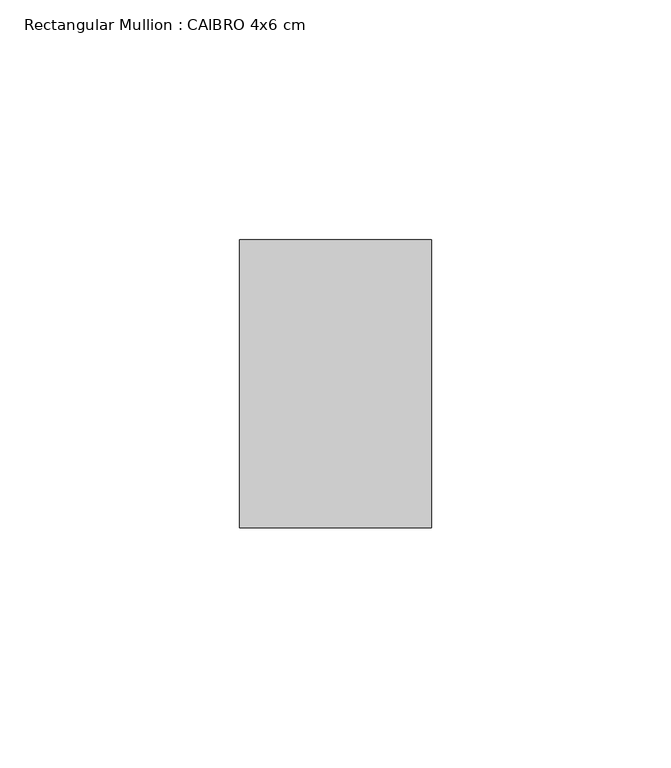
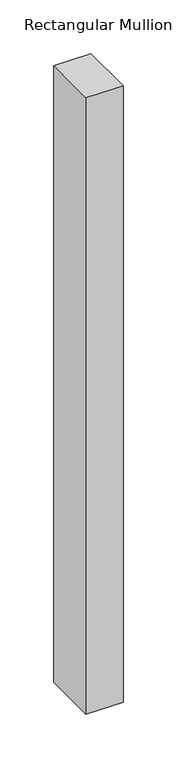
"""IFC4 building model written with IfcOpenShell, lengths in millimetres: member geometry, Rectangular Mullion : CAIBRO 4x6 cm."""

from ifc_helpers import new_model, si_unit, frame, origin, place, context, project, spatial, polyline, outline, extrude, source, transform, mapped, element, save


def rectangular_mullion_caibro_4x6_cm_b0cc08a8(model_context):
    return source(origin(), model_context, "Body", "SweptSolid", [
        extrude(outline(polyline([(0.0, 60.0), (0.0, 0.0), (-40.0, 0.0), (-40.0, 60.0), (0.0, 60.0)])), frame((0.0, 0.0, -700.948661), z_axis=(0.0, 0.0, 1.0), x_axis=(1.0, 0.0, 0.0)), (0.0, 0.0, 1.0), 700.948661),
    ])


if __name__ == "__main__":
    model = new_model("IFC4")
    model_context = context("Model", 3, world=origin())
    ifc_project = project(units=[si_unit("LENGTHUNIT", "METRE", prefix="MILLI")], contexts=[model_context])
    site = spatial("IfcSite", under=ifc_project)
    building = spatial("IfcBuilding", under=site)
    placement = place(None, origin())
    rectangular_mullion_caibro_4x6_cm_shape = rectangular_mullion_caibro_4x6_cm_b0cc08a8(model_context)
    element("IfcMember", 1, ObjectType="Rectangular Mullion : CAIBRO 4x6 cm", at=placement, inside=building, context=model_context, shape_type="MappedRepresentation", body=[
        mapped(rectangular_mullion_caibro_4x6_cm_shape, transform((0.0, 0.0, 0.0), x_axis=(1.0, 0.0, 0.0), y_axis=(0.0, 1.0, 0.0), z_axis=(0.0, 0.0, 1.0))),
    ])
    save(model, "model.ifc")
